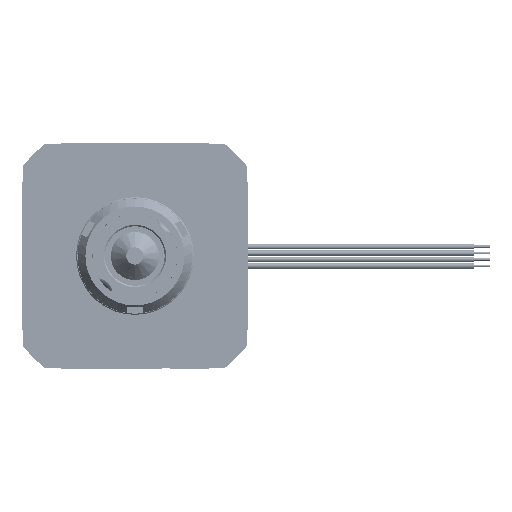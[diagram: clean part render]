
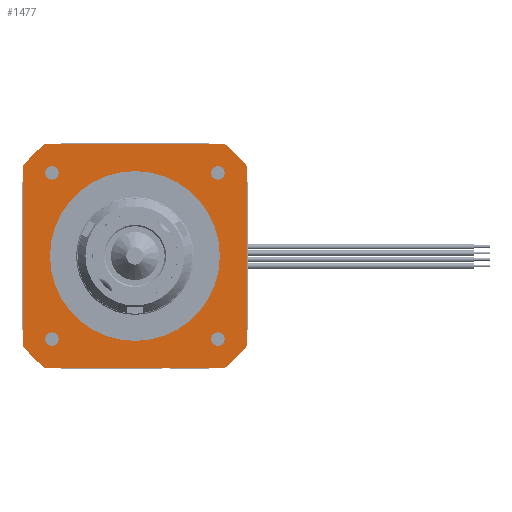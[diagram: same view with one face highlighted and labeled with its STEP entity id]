
A CAD part, left-side view. The second image highlights one B-rep face of the part: STEP entity #1477.
In plain terms, the highlighted planar face has unit normal (-1, 0, 0).
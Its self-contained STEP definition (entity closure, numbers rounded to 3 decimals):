
#2=CARTESIAN_POINT('',(0.,0.,0.));
#3=DIRECTION('',(1.,0.,0.));
#4=DIRECTION('',(0.,0.623,-0.783));
#5=AXIS2_PLACEMENT_3D('',#2,#3,#4);
#7=DIRECTION('',(0.,0.,1.));
#8=VECTOR('',#7,33.414);
#9=CARTESIAN_POINT('',(0.,21.,-16.707));
#10=LINE('',#9,#8);
#11=CARTESIAN_POINT('',(0.,0.,0.));
#12=DIRECTION('',(1.,0.,0.));
#13=DIRECTION('',(0.,0.783,0.623));
#14=AXIS2_PLACEMENT_3D('',#11,#12,#13);
#16=DIRECTION('',(0.,-1.,0.));
#17=VECTOR('',#16,33.414);
#18=CARTESIAN_POINT('',(0.,16.707,21.));
#19=LINE('',#18,#17);
#20=CARTESIAN_POINT('',(0.,0.,0.));
#21=DIRECTION('',(1.,0.,0.));
#22=DIRECTION('',(0.,-0.623,0.783));
#23=AXIS2_PLACEMENT_3D('',#20,#21,#22);
#25=DIRECTION('',(0.,0.,-1.));
#26=VECTOR('',#25,33.414);
#27=CARTESIAN_POINT('',(0.,-21.,16.707));
#28=LINE('',#27,#26);
#29=CARTESIAN_POINT('',(0.,0.,0.));
#30=DIRECTION('',(1.,0.,0.));
#31=DIRECTION('',(0.,-0.783,-0.623));
#32=AXIS2_PLACEMENT_3D('',#29,#30,#31);
#34=DIRECTION('',(0.,1.,0.));
#35=VECTOR('',#34,33.414);
#36=CARTESIAN_POINT('',(0.,-16.707,-21.));
#37=LINE('',#36,#35);
#38=CARTESIAN_POINT('',(0.,0.,0.));
#39=DIRECTION('',(-1.,0.,0.));
#40=DIRECTION('',(0.,1.,0.));
#41=AXIS2_PLACEMENT_3D('',#38,#39,#40);
#43=CARTESIAN_POINT('',(0.,0.,0.));
#44=DIRECTION('',(-1.,0.,0.));
#45=DIRECTION('',(0.,-1.,0.));
#46=AXIS2_PLACEMENT_3D('',#43,#44,#45);
#48=CARTESIAN_POINT('',(0.,-15.52,-15.52));
#49=DIRECTION('',(-1.,0.,0.));
#50=DIRECTION('',(0.,1.,0.));
#51=AXIS2_PLACEMENT_3D('',#48,#49,#50);
#53=CARTESIAN_POINT('',(0.,-15.52,-15.52));
#54=DIRECTION('',(-1.,0.,0.));
#55=DIRECTION('',(0.,-1.,0.));
#56=AXIS2_PLACEMENT_3D('',#53,#54,#55);
#58=CARTESIAN_POINT('',(0.,15.52,-15.52));
#59=DIRECTION('',(-1.,0.,0.));
#60=DIRECTION('',(0.,0.,1.));
#61=AXIS2_PLACEMENT_3D('',#58,#59,#60);
#63=CARTESIAN_POINT('',(0.,15.52,-15.52));
#64=DIRECTION('',(-1.,0.,0.));
#65=DIRECTION('',(0.,0.,-1.));
#66=AXIS2_PLACEMENT_3D('',#63,#64,#65);
#68=CARTESIAN_POINT('',(0.,15.52,15.52));
#69=DIRECTION('',(-1.,0.,0.));
#70=DIRECTION('',(0.,-1.,0.));
#71=AXIS2_PLACEMENT_3D('',#68,#69,#70);
#73=CARTESIAN_POINT('',(0.,15.52,15.52));
#74=DIRECTION('',(-1.,0.,0.));
#75=DIRECTION('',(0.,1.,0.));
#76=AXIS2_PLACEMENT_3D('',#73,#74,#75);
#78=CARTESIAN_POINT('',(0.,-15.52,15.52));
#79=DIRECTION('',(-1.,0.,0.));
#80=DIRECTION('',(0.,0.,-1.));
#81=AXIS2_PLACEMENT_3D('',#78,#79,#80);
#83=CARTESIAN_POINT('',(0.,-15.52,15.52));
#84=DIRECTION('',(-1.,0.,0.));
#85=DIRECTION('',(0.,0.,1.));
#86=AXIS2_PLACEMENT_3D('',#83,#84,#85);
#1188=CARTESIAN_POINT('',(0.,21.,-16.707));
#1189=CARTESIAN_POINT('',(0.,21.,16.707));
#1190=VERTEX_POINT('',#1188);
#1191=VERTEX_POINT('',#1189);
#1192=CARTESIAN_POINT('',(0.,16.707,21.));
#1193=CARTESIAN_POINT('',(0.,-16.707,21.));
#1194=VERTEX_POINT('',#1192);
#1195=VERTEX_POINT('',#1193);
#1196=CARTESIAN_POINT('',(0.,-21.,16.707));
#1197=CARTESIAN_POINT('',(0.,-21.,-16.707));
#1198=VERTEX_POINT('',#1196);
#1199=VERTEX_POINT('',#1197);
#1200=CARTESIAN_POINT('',(0.,-16.707,-21.));
#1201=CARTESIAN_POINT('',(0.,16.707,-21.));
#1202=VERTEX_POINT('',#1200);
#1203=VERTEX_POINT('',#1201);
#1212=CARTESIAN_POINT('',(0.,15.875,0.));
#1213=CARTESIAN_POINT('',(0.,-15.875,0.));
#1214=VERTEX_POINT('',#1212);
#1215=VERTEX_POINT('',#1213);
#1224=CARTESIAN_POINT('',(0.,-14.27,-15.52));
#1225=CARTESIAN_POINT('',(0.,-16.77,-15.52));
#1226=VERTEX_POINT('',#1224);
#1227=VERTEX_POINT('',#1225);
#1232=CARTESIAN_POINT('',(0.,15.52,-14.27));
#1233=CARTESIAN_POINT('',(0.,15.52,-16.77));
#1234=VERTEX_POINT('',#1232);
#1235=VERTEX_POINT('',#1233);
#1240=CARTESIAN_POINT('',(0.,14.27,15.52));
#1241=CARTESIAN_POINT('',(0.,16.77,15.52));
#1242=VERTEX_POINT('',#1240);
#1243=VERTEX_POINT('',#1241);
#1248=CARTESIAN_POINT('',(0.,-15.52,14.27));
#1249=CARTESIAN_POINT('',(0.,-15.52,16.77));
#1250=VERTEX_POINT('',#1248);
#1251=VERTEX_POINT('',#1249);
#1424=CARTESIAN_POINT('',(0.,0.,0.));
#1425=DIRECTION('',(1.,0.,0.));
#1426=DIRECTION('',(0.,-1.,0.));
#1427=AXIS2_PLACEMENT_3D('',#1424,#1425,#1426);
#1428=PLANE('',#1427);
#1430=ORIENTED_EDGE('',*,*,#1429,.T.);
#1432=ORIENTED_EDGE('',*,*,#1431,.T.);
#1434=ORIENTED_EDGE('',*,*,#1433,.T.);
#1436=ORIENTED_EDGE('',*,*,#1435,.T.);
#1438=ORIENTED_EDGE('',*,*,#1437,.T.);
#1440=ORIENTED_EDGE('',*,*,#1439,.T.);
#1442=ORIENTED_EDGE('',*,*,#1441,.T.);
#1444=ORIENTED_EDGE('',*,*,#1443,.T.);
#1445=EDGE_LOOP('',(#1430,#1432,#1434,#1436,#1438,#1440,#1442,#1444));
#1446=FACE_OUTER_BOUND('',#1445,.F.);
#1448=ORIENTED_EDGE('',*,*,#1447,.T.);
#1450=ORIENTED_EDGE('',*,*,#1449,.T.);
#1451=EDGE_LOOP('',(#1448,#1450));
#1452=FACE_BOUND('',#1451,.F.);
#1454=ORIENTED_EDGE('',*,*,#1453,.T.);
#1456=ORIENTED_EDGE('',*,*,#1455,.T.);
#1457=EDGE_LOOP('',(#1454,#1456));
#1458=FACE_BOUND('',#1457,.F.);
#1460=ORIENTED_EDGE('',*,*,#1459,.T.);
#1462=ORIENTED_EDGE('',*,*,#1461,.T.);
#1463=EDGE_LOOP('',(#1460,#1462));
#1464=FACE_BOUND('',#1463,.F.);
#1466=ORIENTED_EDGE('',*,*,#1465,.T.);
#1468=ORIENTED_EDGE('',*,*,#1467,.T.);
#1469=EDGE_LOOP('',(#1466,#1468));
#1470=FACE_BOUND('',#1469,.F.);
#1472=ORIENTED_EDGE('',*,*,#1471,.T.);
#1474=ORIENTED_EDGE('',*,*,#1473,.T.);
#1475=EDGE_LOOP('',(#1472,#1474));
#1476=FACE_BOUND('',#1475,.F.);
#1477=ADVANCED_FACE('',(#1446,#1452,#1458,#1464,#1470,#1476),#1428,.F.);
#6=CIRCLE('',#5,26.835);
#15=CIRCLE('',#14,26.835);
#24=CIRCLE('',#23,26.835);
#33=CIRCLE('',#32,26.835);
#42=CIRCLE('',#41,15.875);
#47=CIRCLE('',#46,15.875);
#52=CIRCLE('',#51,1.25);
#57=CIRCLE('',#56,1.25);
#62=CIRCLE('',#61,1.25);
#67=CIRCLE('',#66,1.25);
#72=CIRCLE('',#71,1.25);
#77=CIRCLE('',#76,1.25);
#82=CIRCLE('',#81,1.25);
#87=CIRCLE('',#86,1.25);
#1429=EDGE_CURVE('',#1203,#1190,#6,.T.);
#1431=EDGE_CURVE('',#1190,#1191,#10,.T.);
#1433=EDGE_CURVE('',#1191,#1194,#15,.T.);
#1435=EDGE_CURVE('',#1194,#1195,#19,.T.);
#1437=EDGE_CURVE('',#1195,#1198,#24,.T.);
#1439=EDGE_CURVE('',#1198,#1199,#28,.T.);
#1441=EDGE_CURVE('',#1199,#1202,#33,.T.);
#1443=EDGE_CURVE('',#1202,#1203,#37,.T.);
#1447=EDGE_CURVE('',#1214,#1215,#42,.T.);
#1449=EDGE_CURVE('',#1215,#1214,#47,.T.);
#1453=EDGE_CURVE('',#1226,#1227,#52,.T.);
#1455=EDGE_CURVE('',#1227,#1226,#57,.T.);
#1459=EDGE_CURVE('',#1234,#1235,#62,.T.);
#1461=EDGE_CURVE('',#1235,#1234,#67,.T.);
#1465=EDGE_CURVE('',#1242,#1243,#72,.T.);
#1467=EDGE_CURVE('',#1243,#1242,#77,.T.);
#1471=EDGE_CURVE('',#1250,#1251,#82,.T.);
#1473=EDGE_CURVE('',#1251,#1250,#87,.T.);
